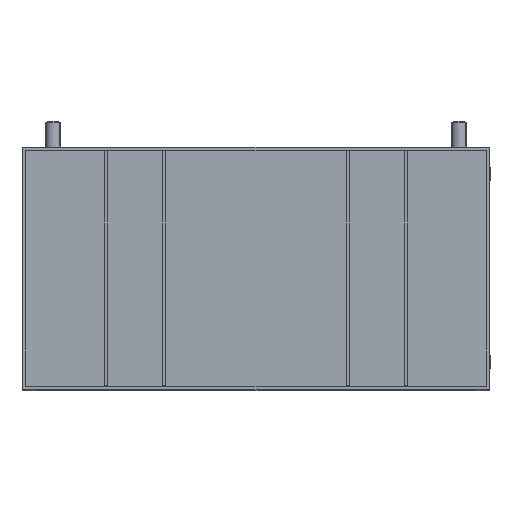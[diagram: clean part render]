
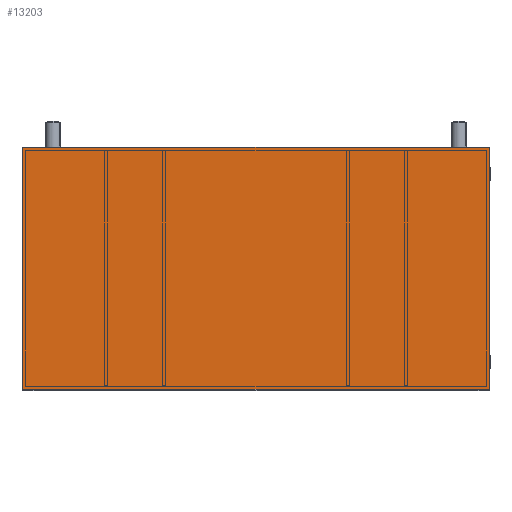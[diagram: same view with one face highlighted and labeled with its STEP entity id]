
A CAD part, top view. The second image highlights one B-rep face of the part: STEP entity #13203.
In plain terms, the highlighted planar face has unit normal (0, 0, 1) as drawn and (0, 0, -1) by its records, which use the part's own axes.
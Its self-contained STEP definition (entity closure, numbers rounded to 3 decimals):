
#648 = DIRECTION ( 'NONE',  ( 0., 0., -1. ) ) ;
#769 = LINE ( 'NONE', #11191, #8001 ) ;
#810 = VECTOR ( 'NONE', #1539, 1000. ) ;
#833 = ORIENTED_EDGE ( 'NONE', *, *, #4581, .F. ) ;
#1539 = DIRECTION ( 'NONE',  ( 1., 0., 0. ) ) ;
#1602 = LINE ( 'NONE', #4725, #810 ) ;
#3654 = VECTOR ( 'NONE', #6965, 1000. ) ;
#4212 = LINE ( 'NONE', #11419, #11300 ) ;
#4229 = EDGE_CURVE ( 'NONE', #12350, #9542, #6837, .T. ) ;
#4521 = ORIENTED_EDGE ( 'NONE', *, *, #4770, .F. ) ;
#4581 = EDGE_CURVE ( 'NONE', #6305, #12350, #1602, .T. ) ;
#4725 = CARTESIAN_POINT ( 'NONE',  ( 0., -100., -2.5 ) ) ;
#4770 = EDGE_CURVE ( 'NONE', #9542, #10033, #769, .T. ) ;
#5835 = FACE_OUTER_BOUND ( 'NONE', #11930, .T. ) ;
#6305 = VERTEX_POINT ( 'NONE', #12287 ) ;
#6583 = EDGE_CURVE ( 'NONE', #10033, #6305, #4212, .T. ) ;
#6837 = LINE ( 'NONE', #13154, #3654 ) ;
#6919 = PLANE ( 'NONE',  #8080 ) ;
#6965 = DIRECTION ( 'NONE',  ( 0., 1., 0. ) ) ;
#8001 = VECTOR ( 'NONE', #10309, 1000. ) ;
#8066 = CARTESIAN_POINT ( 'NONE',  ( 0., 0., -2.5 ) ) ;
#8080 = AXIS2_PLACEMENT_3D ( 'NONE', #8066, #648, #13108 ) ;
#8168 = CARTESIAN_POINT ( 'NONE',  ( 192.75, 100., -2.5 ) ) ;
#9434 = DIRECTION ( 'NONE',  ( 0., -1., 0. ) ) ;
#9438 = CARTESIAN_POINT ( 'NONE',  ( -192.75, 100., -2.5 ) ) ;
#9542 = VERTEX_POINT ( 'NONE', #8168 ) ;
#9935 = ORIENTED_EDGE ( 'NONE', *, *, #4229, .F. ) ;
#10033 = VERTEX_POINT ( 'NONE', #9438 ) ;
#10142 = ORIENTED_EDGE ( 'NONE', *, *, #6583, .F. ) ;
#10309 = DIRECTION ( 'NONE',  ( -1., 0., 0. ) ) ;
#11191 = CARTESIAN_POINT ( 'NONE',  ( 0., 100., -2.5 ) ) ;
#11300 = VECTOR ( 'NONE', #9434, 1000. ) ;
#11419 = CARTESIAN_POINT ( 'NONE',  ( -192.75, 0., -2.5 ) ) ;
#11859 = CARTESIAN_POINT ( 'NONE',  ( 192.75, -100., -2.5 ) ) ;
#11930 = EDGE_LOOP ( 'NONE', ( #9935, #833, #10142, #4521 ) ) ;
#12287 = CARTESIAN_POINT ( 'NONE',  ( -192.75, -100., -2.5 ) ) ;
#12350 = VERTEX_POINT ( 'NONE', #11859 ) ;
#13108 = DIRECTION ( 'NONE',  ( -1., 0., 0. ) ) ;
#13154 = CARTESIAN_POINT ( 'NONE',  ( 192.75, 0., -2.5 ) ) ;
#13203 = ADVANCED_FACE ( 'NONE', ( #5835 ), #6919, .T. ) ;
